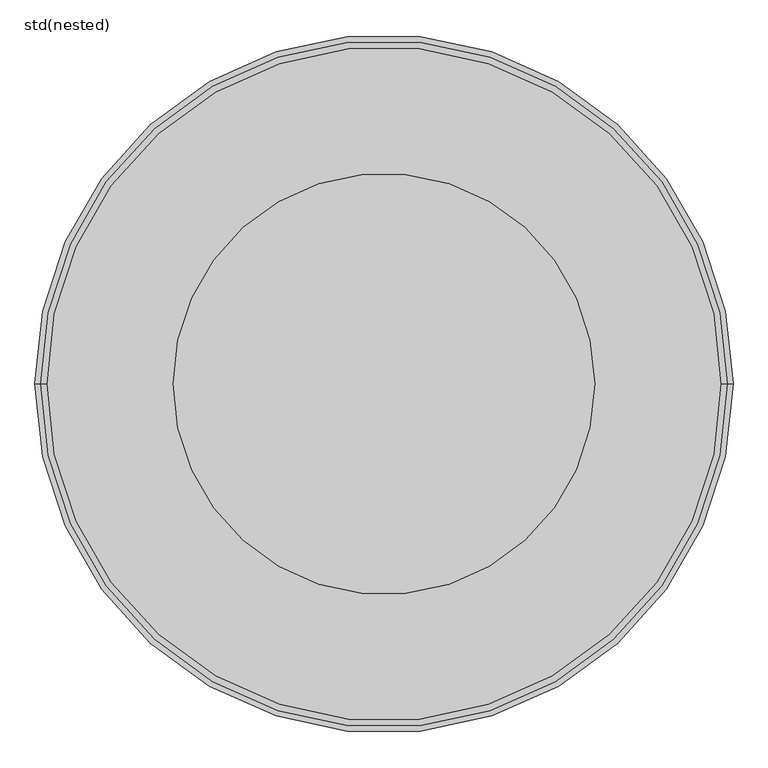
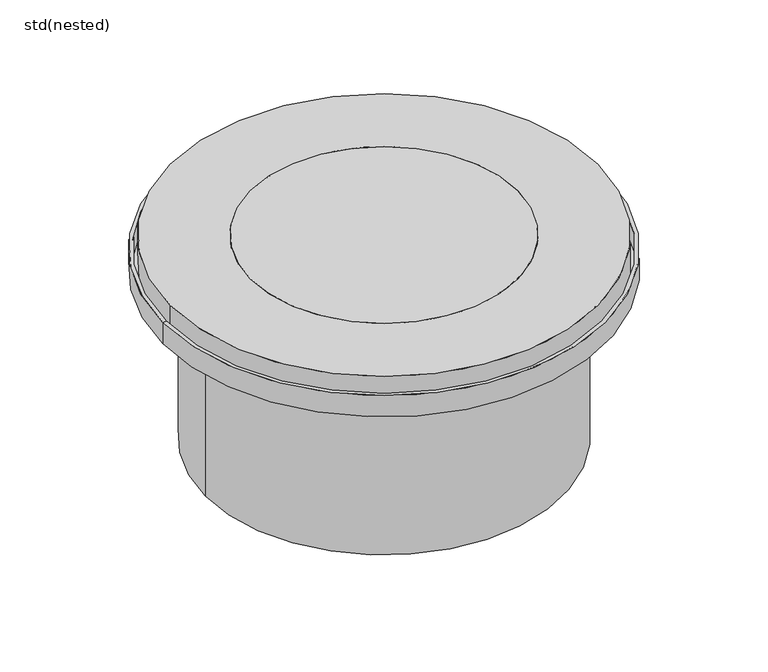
"""IFC4 building model written with IfcOpenShell, lengths in millimetres: unitary equipment geometry, ZZZ_do not use_ME_ST_WPB_top sections_plastic_ACO : std(nested)."""

from ifc_helpers import new_model, si_unit, point, frame, origin, origin_2d, place, context, project, spatial, polyline, circle_curve, trimmed, segment, composite_curve, outline, extrude, source, transform, mapped, element, save
from ifc_brep_helpers import plane_surface, cylinder_surface, revolved_surface, advanced_brep


def std_nested_809f9411(model_context):
    return source(origin(), model_context, "Body", "SolidModel", [
        advanced_brep(
        [(-510.0, 0.0, -35.0), (510.0, 0.0, -35.0), (518.0, 0.0, -35.0), (-518.0, 0.0, -35.0), (-510.0, 0.0, -80.0), (510.0, 0.0, -80.0), (-410.0, 0.0, -80.0), (410.0, 0.0, -80.0), (-410.0, 0.0, -500.0), (410.0, 0.0, -500.0), (-418.0, 0.0, -500.0), (418.0, 0.0, -500.0), (-418.0, 0.0, -88.0), (418.0, 0.0, -88.0), (-518.0, 0.0, -88.0), (518.0, 0.0, -88.0)],
        [
            (0, 1, circle_curve(frame((0.0, 0.0, -35.0), z_axis=(0.0, 0.0, -1.0), x_axis=(1.0, 0.0, 0.0)), 510.0)),
            (1, 2),
            (2, 3, circle_curve(frame((0.0, 0.0, -35.0), z_axis=(0.0, 0.0, 1.0), x_axis=(1.0, 0.0, 0.0)), 518.0)),
            (3, 0),
            (1, 0, circle_curve(frame((0.0, 0.0, -35.0), z_axis=(0.0, 0.0, -1.0), x_axis=(1.0, 0.0, 0.0)), 510.0)),
            (3, 2, circle_curve(frame((0.0, 0.0, -35.0), z_axis=(0.0, 0.0, 1.0), x_axis=(1.0, 0.0, 0.0)), 518.0)),
            (4, 5, circle_curve(frame((0.0, 0.0, -80.0), z_axis=(0.0, 0.0, -1.0), x_axis=(1.0, 0.0, 0.0)), 510.0)),
            (5, 1),
            (0, 4),
            (5, 4, circle_curve(frame((0.0, 0.0, -80.0), z_axis=(0.0, 0.0, -1.0), x_axis=(1.0, 0.0, 0.0)), 510.0)),
            (6, 7, circle_curve(frame((0.0, 0.0, -80.0), z_axis=(0.0, 0.0, -1.0), x_axis=(1.0, 0.0, 0.0)), 410.0)),
            (7, 5),
            (4, 6),
            (7, 6, circle_curve(frame((0.0, 0.0, -80.0), z_axis=(0.0, 0.0, -1.0), x_axis=(1.0, 0.0, 0.0)), 410.0)),
            (8, 9, circle_curve(frame((0.0, 0.0, -500.0), z_axis=(0.0, 0.0, -1.0), x_axis=(1.0, 0.0, 0.0)), 410.0)),
            (9, 7),
            (6, 8),
            (9, 8, circle_curve(frame((0.0, 0.0, -500.0), z_axis=(0.0, 0.0, -1.0), x_axis=(1.0, 0.0, 0.0)), 410.0)),
            (10, 11, circle_curve(frame((0.0, 0.0, -500.0), z_axis=(0.0, 0.0, -1.0), x_axis=(1.0, 0.0, 0.0)), 418.0)),
            (11, 9),
            (8, 10),
            (11, 10, circle_curve(frame((0.0, 0.0, -500.0), z_axis=(0.0, 0.0, -1.0), x_axis=(1.0, 0.0, 0.0)), 418.0)),
            (12, 13, circle_curve(frame((0.0, 0.0, -88.0), z_axis=(0.0, 0.0, -1.0), x_axis=(1.0, 0.0, 0.0)), 418.0)),
            (13, 11),
            (10, 12),
            (13, 12, circle_curve(frame((0.0, 0.0, -88.0), z_axis=(0.0, 0.0, -1.0), x_axis=(1.0, 0.0, 0.0)), 418.0)),
            (14, 15, circle_curve(frame((0.0, 0.0, -88.0), z_axis=(0.0, 0.0, -1.0), x_axis=(1.0, 0.0, 0.0)), 518.0)),
            (15, 13),
            (12, 14),
            (15, 14, circle_curve(frame((0.0, 0.0, -88.0), z_axis=(0.0, 0.0, -1.0), x_axis=(1.0, 0.0, 0.0)), 518.0)),
            (2, 15),
            (14, 3),
        ],
        [
            plane_surface(frame((0.0, 0.0, -35.0), z_axis=(0.0, 0.0, 1.0), x_axis=(1.0, 0.0, 0.0))),
            revolved_surface(polyline([(510.0, 0.0, -35.0), (510.0, 0.0, -80.0)]), (0.0, 0.0, 240.0), (0.0, 0.0, 1.0)),
            plane_surface(frame((0.0, 0.0, -80.0), z_axis=(0.0, 0.0, 1.0), x_axis=(1.0, 0.0, 0.0))),
            revolved_surface(polyline([(410.0, 0.0, -80.0), (410.0, 0.0, -500.0)]), (0.0, 0.0, 240.0), (0.0, 0.0, 1.0)),
            plane_surface(frame((0.0, 0.0, -500.0), z_axis=(0.0, 0.0, -1.0), x_axis=(1.0, 0.0, 0.0))),
            cylinder_surface(frame((0.0, 0.0, 240.0), z_axis=(0.0, 0.0, 1.0), x_axis=(1.0, 0.0, 0.0)), 418.0),
            plane_surface(frame((0.0, 0.0, -88.0), z_axis=(0.0, 0.0, -1.0), x_axis=(1.0, 0.0, 0.0))),
            cylinder_surface(frame((0.0, 0.0, 240.0), z_axis=(0.0, 0.0, 1.0), x_axis=(1.0, 0.0, 0.0)), 518.0),
        ],
        [
            (0, [[1, 2, 3, 4]]),
            (0, [[5, -4, 6, -2]]),
            (1, [[7, 8, -1, 9]]),
            (1, [[10, -9, -5, -8]]),
            (2, [[11, 12, -7, 13]]),
            (2, [[14, -13, -10, -12]]),
            (3, [[15, 16, -11, 17]]),
            (3, [[18, -17, -14, -16]]),
            (4, [[19, 20, -15, 21]]),
            (4, [[22, -21, -18, -20]]),
            (5, [[23, 24, -19, 25]]),
            (5, [[26, -25, -22, -24]]),
            (6, [[27, 28, -23, 29]]),
            (6, [[30, -29, -26, -28]]),
            (7, [[-3, 31, -27, 32]]),
            (7, [[-6, -32, -30, -31]]),
        ],
    ),
        extrude(outline(composite_curve([segment(trimmed(circle_curve(origin_2d(), 312.5), [point((312.5, 0.0))], [point((-312.5, 0.0))], False, "CARTESIAN"), True, "CONTINUOUS"), segment(trimmed(circle_curve(origin_2d(), 312.5), [point((-312.5, 0.0))], [point((312.5, 0.0))], False, "CARTESIAN"), True, "CONTINUOUS")], self_intersect=False)), frame((0.0, 0.0, -60.0), z_axis=(0.0, 0.0, 1.0), x_axis=(1.0, 0.0, 0.0)), (0.0, 0.0, 1.0), 60.0),
        extrude(outline(composite_curve([segment(trimmed(circle_curve(origin_2d(), 500.0), [point((-500.0, 0.0))], [point((500.0, 0.0))], False, "CARTESIAN"), True, "CONTINUOUS"), segment(trimmed(circle_curve(origin_2d(), 500.0), [point((500.0, 0.0))], [point((-500.0, 0.0))], False, "CARTESIAN"), True, "CONTINUOUS")], self_intersect=False), holes=[composite_curve([segment(trimmed(circle_curve(origin_2d(), 312.5), [point((-312.5, 0.0))], [point((312.5, 0.0))], True, "CARTESIAN"), True, "CONTINUOUS"), segment(trimmed(circle_curve(origin_2d(), 312.5), [point((312.5, 0.0))], [point((-312.5, 0.0))], True, "CARTESIAN"), True, "CONTINUOUS")], self_intersect=False)]), frame((0.0, 0.0, -80.0), z_axis=(0.0, 0.0, 1.0), x_axis=(1.0, 0.0, 0.0)), (0.0, 0.0, 1.0), 80.0),
    ])


if __name__ == "__main__":
    model = new_model("IFC4")
    model_context = context("Model", 3, world=origin())
    ifc_project = project(units=[si_unit("LENGTHUNIT", "METRE", prefix="MILLI")], contexts=[model_context])
    site = spatial("IfcSite", under=ifc_project)
    building = spatial("IfcBuilding", under=site)
    placement = place(None, origin())
    std_nested_shape = std_nested_809f9411(model_context)
    element("IfcUnitaryEquipment", 1, ObjectType="ZZZ_do not use_ME_ST_WPB_top sections_plastic_ACO : std(nested)", at=placement, inside=building, context=model_context, shape_type="MappedRepresentation", body=[
        mapped(std_nested_shape, transform((0.0, 0.0, 0.0), x_axis=(1.0, 0.0, 0.0), y_axis=(0.0, 1.0, 0.0), z_axis=(0.0, 0.0, 1.0))),
    ])
    save(model, "model.ifc")
